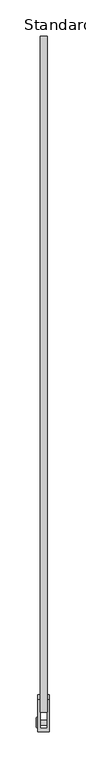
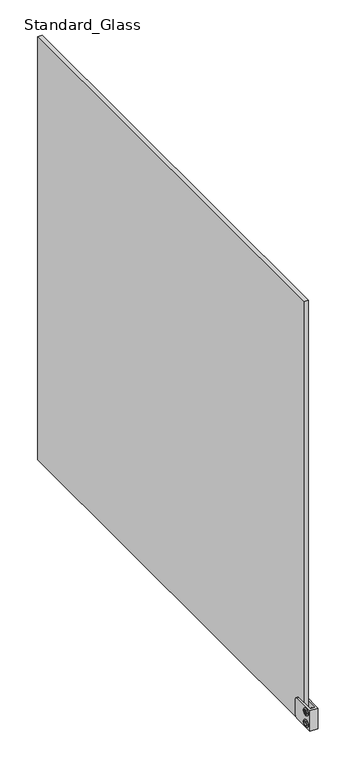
"""IFC4 building model written with IfcOpenShell, lengths in millimetres: railing geometry, Baluster-Excess-Fill-Straight-Panel-VIVA : Standard_Glass."""

from ifc_helpers import new_model, si_unit, point, frame, origin, place, context, project, spatial, polyline, circle_curve, ellipse_curve, trimmed, outline, extrude, source, transform, mapped, element, save
from ifc_brep_helpers import plane_surface, cylinder_surface, revolved_surface, advanced_brep


def standard_glass_6db6d0f4(model_context):
    return source(origin(), model_context, "Body", "SolidModel", [
        advanced_brep(
        [(36.7665, -950.8627289, 138.7358896), (24.0665, -950.8627289, 138.7358896), (24.0665, -943.7718371, 138.7358896), (36.7665, -943.7718371, 138.7358896), (24.0665, -954.7250721, 138.7358896), (24.0665, -939.9094939, 138.7358896), (23.199388, -948.9733584, 138.7358896), (36.7665, -948.9733584, 138.7358896), (36.7665, -945.6612076, 138.7358896), (23.199388, -945.6612076, 138.7358896), (23.2316551, -954.7250721, 138.7358896), (21.9503831, -953.4438, 138.7358896), (21.9503831, -941.1907659, 138.7358896), (23.2316551, -939.9094939, 138.7358896), (21.9503831, -951.6158785, 138.7358896), (21.9503831, -943.0186874, 138.7358896), (23.199388, -951.6158785, 138.7358896), (23.199388, -943.0186874, 138.7358896)],
        [
            (0, 1),
            (1, 2, circle_curve(frame((24.0665, -947.317283, 138.7358896), z_axis=(1.0, 0.0, 0.0), x_axis=(0.0, 1.0, 0.0)), 3.5454459)),
            (2, 3),
            (3, 0, circle_curve(frame((36.7665, -947.317283, 138.7358896), z_axis=(-1.0, 0.0, 0.0), x_axis=(0.0, 1.0, 0.0)), 3.5454459)),
            (2, 1, circle_curve(frame((24.0665, -947.317283, 138.7358896), z_axis=(1.0, 0.0, 0.0), x_axis=(0.0, 1.0, 0.0)), 3.5454459)),
            (0, 3, circle_curve(frame((36.7665, -947.317283, 138.7358896), z_axis=(-1.0, 0.0, 0.0), x_axis=(0.0, 1.0, 0.0)), 3.5454459)),
            (1, 4),
            (4, 5, circle_curve(frame((24.0665, -947.317283, 138.7358896), z_axis=(1.0, 0.0, 0.0), x_axis=(0.0, 1.0, 0.0)), 7.4077891)),
            (5, 2),
            (5, 4, circle_curve(frame((24.0665, -947.317283, 138.7358896), z_axis=(1.0, 0.0, 0.0), x_axis=(0.0, 1.0, 0.0)), 7.4077891)),
            (6, 7),
            (7, 8, circle_curve(frame((36.7665, -947.317283, 138.7358896), z_axis=(1.0, 0.0, 0.0), x_axis=(0.0, 1.0, 0.0)), 1.6560754)),
            (8, 9),
            (9, 6, circle_curve(frame((23.199388, -947.317283, 138.7358896), z_axis=(-1.0, 0.0, 0.0), x_axis=(0.0, 1.0, 0.0)), 1.6560754)),
            (8, 7, circle_curve(frame((36.7665, -947.317283, 138.7358896), z_axis=(1.0, 0.0, 0.0), x_axis=(0.0, 1.0, 0.0)), 1.6560754)),
            (6, 9, circle_curve(frame((23.199388, -947.317283, 138.7358896), z_axis=(-1.0, 0.0, 0.0), x_axis=(0.0, 1.0, 0.0)), 1.6560754)),
            (10, 11, circle_curve(frame((23.2316551, -953.4438, 138.7358896), z_axis=(0.0, 0.0, -1.0), x_axis=(0.0, -1.0, 0.0)), 1.281272)),
            (11, 12, circle_curve(frame((21.9503831, -947.317283, 138.7358896), z_axis=(1.0, 0.0, 0.0), x_axis=(0.0, 1.0, 0.0)), 6.1265171)),
            (12, 13, circle_curve(frame((23.2316551, -941.1907659, 138.7358896), z_axis=(0.0, 0.0, -1.0), x_axis=(0.0, 1.0, 0.0)), 1.281272)),
            (13, 10, circle_curve(frame((23.2316551, -947.317283, 138.7358896), z_axis=(-1.0, 0.0, 0.0), x_axis=(0.0, 1.0, 0.0)), 7.4077891)),
            (12, 11, circle_curve(frame((21.9503831, -947.317283, 138.7358896), z_axis=(1.0, 0.0, 0.0), x_axis=(0.0, 1.0, 0.0)), 6.1265171)),
            (10, 13, circle_curve(frame((23.2316551, -947.317283, 138.7358896), z_axis=(-1.0, 0.0, 0.0), x_axis=(0.0, 1.0, 0.0)), 7.4077891)),
            (11, 14),
            (14, 15, circle_curve(frame((21.9503831, -947.317283, 138.7358896), z_axis=(1.0, 0.0, 0.0), x_axis=(0.0, 1.0, 0.0)), 4.2985955)),
            (15, 12),
            (15, 14, circle_curve(frame((21.9503831, -947.317283, 138.7358896), z_axis=(1.0, 0.0, 0.0), x_axis=(0.0, 1.0, 0.0)), 4.2985955)),
            (4, 10),
            (13, 5),
            (7, 0),
            (3, 8),
            (14, 16),
            (16, 17, circle_curve(frame((23.199388, -947.317283, 138.7358896), z_axis=(1.0, 0.0, 0.0), x_axis=(0.0, 1.0, 0.0)), 4.2985955)),
            (17, 15),
            (17, 16, circle_curve(frame((23.199388, -947.317283, 138.7358896), z_axis=(1.0, 0.0, 0.0), x_axis=(0.0, 1.0, 0.0)), 4.2985955)),
            (16, 6),
            (9, 17),
        ],
        [
            cylinder_surface(frame((27.5632331, -947.317283, 138.7358896), z_axis=(1.0, 0.0, 0.0), x_axis=(0.0, 1.0, 0.0)), 3.5454459),
            plane_surface(frame((24.0665, -947.317283, 138.7358896), z_axis=(1.0, 0.0, 0.0), x_axis=(0.0, 1.0, 0.0))),
            revolved_surface(polyline([(36.7665, -945.6612076, 138.7358896), (23.199388, -945.6612076, 138.7358896)]), (27.5632331, -947.317283, 138.7358896), (1.0, 0.0, 0.0)),
            revolved_surface(trimmed(ellipse_curve(frame((23.2316551, -941.1907659, 138.7358896), z_axis=(0.0, 0.0, -1.0), x_axis=(0.0, 1.0, 0.0)), 1.281272, 1.281272), [point((21.9503831, -941.1907659, 138.7358896))], [point((23.2316551, -939.9094939, 138.7358896))], True, "CARTESIAN"), (27.5632331, -947.317283, 138.7358896), (1.0, 0.0, 0.0)),
            plane_surface(frame((21.9503831, -947.317283, 138.7358896), z_axis=(-1.0, 0.0, 0.0), x_axis=(0.0, 1.0, 0.0))),
            cylinder_surface(frame((27.5632331, -947.317283, 138.7358896), z_axis=(1.0, 0.0, 0.0), x_axis=(0.0, 1.0, 0.0)), 7.4077891),
            plane_surface(frame((36.7665, -947.317283, 138.7358896), z_axis=(1.0, 0.0, 0.0), x_axis=(0.0, 1.0, 0.0))),
            revolved_surface(polyline([(23.199388, -943.0186874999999, 138.7358896), (21.9503831, -943.0186874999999, 138.7358896)]), (27.5632331, -947.317283, 138.7358896), (1.0, 0.0, 0.0)),
            plane_surface(frame((23.199388, -947.317283, 138.7358896), z_axis=(-1.0, 0.0, 0.0), x_axis=(0.0, 1.0, 0.0))),
        ],
        [
            (0, [[1, 2, 3, 4]]),
            (0, [[-3, 5, -1, 6]]),
            (1, [[7, 8, 9, -2]]),
            (1, [[-9, 10, -7, -5]]),
            (2, [[11, 12, 13, 14]]),
            (2, [[-13, 15, -11, 16]]),
            (3, [[17, 18, 19, 20]]),
            (3, [[-19, 21, -17, 22]]),
            (4, [[23, 24, 25, -18]]),
            (4, [[-25, 26, -23, -21]]),
            (5, [[27, -20, 28, -8]]),
            (5, [[-28, -22, -27, -10]]),
            (6, [[29, -4, 30, -12]]),
            (6, [[-30, -6, -29, -15]]),
            (7, [[31, 32, 33, -24]]),
            (7, [[-33, 34, -31, -26]]),
            (8, [[35, -14, 36, -32]]),
            (8, [[-36, -16, -35, -34]]),
        ],
    ),
        advanced_brep(
        [(36.7665, -950.8627289, 114.1296396), (24.0665, -950.8627289, 114.1296396), (24.0665, -943.7718371, 114.1296396), (36.7665, -943.7718371, 114.1296396), (24.0665, -954.7250721, 114.1296396), (24.0665, -939.9094939, 114.1296396), (23.199388, -948.9733584, 114.1296396), (36.7665, -948.9733584, 114.1296396), (36.7665, -945.6612076, 114.1296396), (23.199388, -945.6612076, 114.1296396), (23.2316551, -954.7250721, 114.1296396), (21.9503831, -953.4438, 114.1296396), (21.9503831, -941.1907659, 114.1296396), (23.2316551, -939.9094939, 114.1296396), (21.9503831, -951.6158785, 114.1296396), (21.9503831, -943.0186874, 114.1296396), (23.199388, -951.6158785, 114.1296396), (23.199388, -943.0186874, 114.1296396)],
        [
            (0, 1),
            (1, 2, circle_curve(frame((24.0665, -947.317283, 114.1296396), z_axis=(1.0, 0.0, 0.0), x_axis=(0.0, 1.0, 0.0)), 3.5454459)),
            (2, 3),
            (3, 0, circle_curve(frame((36.7665, -947.317283, 114.1296396), z_axis=(-1.0, 0.0, 0.0), x_axis=(0.0, 1.0, 0.0)), 3.5454459)),
            (2, 1, circle_curve(frame((24.0665, -947.317283, 114.1296396), z_axis=(1.0, 0.0, 0.0), x_axis=(0.0, 1.0, 0.0)), 3.5454459)),
            (0, 3, circle_curve(frame((36.7665, -947.317283, 114.1296396), z_axis=(-1.0, 0.0, 0.0), x_axis=(0.0, 1.0, 0.0)), 3.5454459)),
            (1, 4),
            (4, 5, circle_curve(frame((24.0665, -947.317283, 114.1296396), z_axis=(1.0, 0.0, 0.0), x_axis=(0.0, 1.0, 0.0)), 7.4077891)),
            (5, 2),
            (5, 4, circle_curve(frame((24.0665, -947.317283, 114.1296396), z_axis=(1.0, 0.0, 0.0), x_axis=(0.0, 1.0, 0.0)), 7.4077891)),
            (6, 7),
            (7, 8, circle_curve(frame((36.7665, -947.317283, 114.1296396), z_axis=(1.0, 0.0, 0.0), x_axis=(0.0, 1.0, 0.0)), 1.6560754)),
            (8, 9),
            (9, 6, circle_curve(frame((23.199388, -947.317283, 114.1296396), z_axis=(-1.0, 0.0, 0.0), x_axis=(0.0, 1.0, 0.0)), 1.6560754)),
            (8, 7, circle_curve(frame((36.7665, -947.317283, 114.1296396), z_axis=(1.0, 0.0, 0.0), x_axis=(0.0, 1.0, 0.0)), 1.6560754)),
            (6, 9, circle_curve(frame((23.199388, -947.317283, 114.1296396), z_axis=(-1.0, 0.0, 0.0), x_axis=(0.0, 1.0, 0.0)), 1.6560754)),
            (10, 11, circle_curve(frame((23.2316551, -953.4438, 114.1296396), z_axis=(0.0, 0.0, -1.0), x_axis=(0.0, -1.0, 0.0)), 1.281272)),
            (11, 12, circle_curve(frame((21.9503831, -947.317283, 114.1296396), z_axis=(1.0, 0.0, 0.0), x_axis=(0.0, 1.0, 0.0)), 6.1265171)),
            (12, 13, circle_curve(frame((23.2316551, -941.1907659, 114.1296396), z_axis=(0.0, 0.0, -1.0), x_axis=(0.0, 1.0, 0.0)), 1.281272)),
            (13, 10, circle_curve(frame((23.2316551, -947.317283, 114.1296396), z_axis=(-1.0, 0.0, 0.0), x_axis=(0.0, 1.0, 0.0)), 7.4077891)),
            (12, 11, circle_curve(frame((21.9503831, -947.317283, 114.1296396), z_axis=(1.0, 0.0, 0.0), x_axis=(0.0, 1.0, 0.0)), 6.1265171)),
            (10, 13, circle_curve(frame((23.2316551, -947.317283, 114.1296396), z_axis=(-1.0, 0.0, 0.0), x_axis=(0.0, 1.0, 0.0)), 7.4077891)),
            (11, 14),
            (14, 15, circle_curve(frame((21.9503831, -947.317283, 114.1296396), z_axis=(1.0, 0.0, 0.0), x_axis=(0.0, 1.0, 0.0)), 4.2985955)),
            (15, 12),
            (15, 14, circle_curve(frame((21.9503831, -947.317283, 114.1296396), z_axis=(1.0, 0.0, 0.0), x_axis=(0.0, 1.0, 0.0)), 4.2985955)),
            (7, 0),
            (3, 8),
            (4, 10),
            (13, 5),
            (14, 16),
            (16, 17, circle_curve(frame((23.199388, -947.317283, 114.1296396), z_axis=(1.0, 0.0, 0.0), x_axis=(0.0, 1.0, 0.0)), 4.2985955)),
            (17, 15),
            (17, 16, circle_curve(frame((23.199388, -947.317283, 114.1296396), z_axis=(1.0, 0.0, 0.0), x_axis=(0.0, 1.0, 0.0)), 4.2985955)),
            (16, 6),
            (9, 17),
        ],
        [
            cylinder_surface(frame((27.5632331, -947.317283, 114.1296396), z_axis=(1.0, 0.0, 0.0), x_axis=(0.0, 1.0, 0.0)), 3.5454459),
            plane_surface(frame((24.0665, -947.317283, 114.1296396), z_axis=(1.0, 0.0, 0.0), x_axis=(0.0, 1.0, 0.0))),
            revolved_surface(polyline([(36.7665, -945.6612076, 114.1296396), (23.199388, -945.6612076, 114.1296396)]), (27.5632331, -947.317283, 114.1296396), (1.0, 0.0, 0.0)),
            revolved_surface(trimmed(ellipse_curve(frame((23.2316551, -941.1907659, 114.1296396), z_axis=(0.0, 0.0, -1.0), x_axis=(0.0, 1.0, 0.0)), 1.281272, 1.281272), [point((21.9503831, -941.1907659, 114.1296396))], [point((23.2316551, -939.9094939, 114.1296396))], True, "CARTESIAN"), (27.5632331, -947.317283, 114.1296396), (1.0, 0.0, 0.0)),
            plane_surface(frame((21.9503831, -947.317283, 114.1296396), z_axis=(-1.0, 0.0, 0.0), x_axis=(0.0, 1.0, 0.0))),
            plane_surface(frame((36.7665, -947.317283, 114.1296396), z_axis=(1.0, 0.0, 0.0), x_axis=(0.0, 1.0, 0.0))),
            cylinder_surface(frame((27.5632331, -947.317283, 114.1296396), z_axis=(1.0, 0.0, 0.0), x_axis=(0.0, 1.0, 0.0)), 7.4077891),
            revolved_surface(polyline([(23.199388, -943.0186874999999, 114.1296396), (21.9503831, -943.0186874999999, 114.1296396)]), (27.5632331, -947.317283, 114.1296396), (1.0, 0.0, 0.0)),
            plane_surface(frame((23.199388, -947.317283, 114.1296396), z_axis=(-1.0, 0.0, 0.0), x_axis=(0.0, 1.0, 0.0))),
        ],
        [
            (0, [[1, 2, 3, 4]]),
            (0, [[-3, 5, -1, 6]]),
            (1, [[7, 8, 9, -2]]),
            (1, [[-9, 10, -7, -5]]),
            (2, [[11, 12, 13, 14]]),
            (2, [[-13, 15, -11, 16]]),
            (3, [[17, 18, 19, 20]]),
            (3, [[-19, 21, -17, 22]]),
            (4, [[23, 24, 25, -18]]),
            (4, [[-25, 26, -23, -21]]),
            (5, [[27, -4, 28, -12]]),
            (5, [[-28, -6, -27, -15]]),
            (6, [[29, -20, 30, -8]]),
            (6, [[-30, -22, -29, -10]]),
            (7, [[31, 32, 33, -24]]),
            (7, [[-33, 34, -31, -26]]),
            (8, [[35, -14, 36, -32]]),
            (8, [[-36, -16, -35, -34]]),
        ],
    ),
        extrude(outline(polyline([(-951.4112113, 114.1296396), (-949.3642471, 117.6750855), (-945.2703188, 117.6750855), (-943.2233547, 114.1296396), (-945.2703188, 110.5841937), (-949.3642471, 110.5841937), (-951.4112113, 114.1296396)])), frame((21.7024185, 0.0, 0.0), z_axis=(1.0, 0.0, 0.0), x_axis=(0.0, 1.0, 0.0)), (0.0, 0.0, 1.0), 1.4969696),
        advanced_brep(
        [(24.0665, -959.9506278, 148.6577646), (24.0665, -915.5006278, 148.6577646), (24.0665, -909.1506278, 142.3077646), (24.0665, -909.1506278, 110.5577646), (24.0665, -915.5006278, 104.2077646), (24.0665, -959.9506278, 104.2077646), (39.9415, -959.9506278, 148.6577646), (39.9415, -959.9506278, 104.2077646), (39.9415, -915.5006278, 104.2077646), (39.9415, -909.1506278, 110.5577646), (39.9415, -909.1506278, 142.3077646), (39.9415, -915.5006278, 148.6577646), (27.2415, -915.5006278, 104.2077646), (27.2415, -955.2325474, 104.2077646), (36.7665, -955.2325474, 104.2077646), (36.7665, -915.5006278, 104.2077646), (27.2415, -955.2325474, 148.6577646), (36.7665, -955.2325474, 148.6577646), (27.2415, -909.1506278, 110.5577646), (27.2415, -909.1506278, 142.3077646), (27.2415, -915.5006278, 148.6577646), (36.7665, -915.5006278, 148.6577646), (36.7665, -909.1506278, 142.3077646), (36.7665, -909.1506278, 110.5577646)],
        [
            (0, 1),
            (1, 2, circle_curve(frame((24.0665, -915.5006278, 142.3077646), z_axis=(-1.0, 0.0, 0.0), x_axis=(0.0, 1.0, 0.0)), 6.35)),
            (2, 3),
            (3, 4, circle_curve(frame((24.0665, -915.5006278, 110.5577646), z_axis=(-1.0, 0.0, 0.0), x_axis=(0.0, 1.0, 0.0)), 6.35)),
            (4, 5),
            (5, 0),
            (6, 7),
            (7, 8),
            (8, 9, circle_curve(frame((39.9415, -915.5006278, 110.5577646), z_axis=(1.0, 0.0, 0.0), x_axis=(0.0, 1.0, 0.0)), 6.35)),
            (9, 10),
            (10, 11, circle_curve(frame((39.9415, -915.5006278, 142.3077646), z_axis=(1.0, 0.0, 0.0), x_axis=(0.0, 1.0, 0.0)), 6.35)),
            (11, 6),
            (5, 7),
            (6, 0),
            (4, 12),
            (12, 13),
            (13, 14),
            (14, 15),
            (15, 8),
            (13, 16),
            (16, 17),
            (17, 14),
            (12, 18, circle_curve(frame((27.2415, -915.5006278, 110.5577646), z_axis=(1.0, 0.0, 0.0), x_axis=(0.0, 1.0, 0.0)), 6.35)),
            (18, 19),
            (19, 20, circle_curve(frame((27.2415, -915.5006278, 142.3077646), z_axis=(1.0, 0.0, 0.0), x_axis=(0.0, 1.0, 0.0)), 6.35)),
            (20, 16),
            (17, 21),
            (21, 22, circle_curve(frame((36.7665, -915.5006278, 142.3077646), z_axis=(-1.0, 0.0, 0.0), x_axis=(0.0, 1.0, 0.0)), 6.35)),
            (22, 23),
            (23, 15, circle_curve(frame((36.7665, -915.5006278, 110.5577646), z_axis=(-1.0, 0.0, 0.0), x_axis=(0.0, 1.0, 0.0)), 6.35)),
            (23, 9),
            (3, 18),
            (22, 10),
            (2, 19),
            (21, 11),
            (1, 20),
        ],
        [
            plane_surface(frame((24.0665, -959.9506278, 104.2077646), z_axis=(-1.0, 0.0, 0.0), x_axis=(0.0, 0.0, -1.0))),
            plane_surface(frame((39.9415, -959.9506278, 104.2077646), z_axis=(1.0, 0.0, 0.0), x_axis=(0.0, 0.0, 1.0))),
            plane_surface(frame((24.0665, -959.9506278, 148.6577646), z_axis=(0.0, -1.0, 0.0), x_axis=(1.0, 0.0, 0.0))),
            plane_surface(frame((24.0665, -959.9506278, 104.2077646), z_axis=(0.0, 0.0, -1.0), x_axis=(1.0, 0.0, 0.0))),
            plane_surface(frame((36.7665, -955.2325474, 161.3577646), z_axis=(0.0, 1.0, 0.0), x_axis=(0.0, 0.0, -1.0))),
            plane_surface(frame((27.2415, -955.2325474, 161.3577646), z_axis=(1.0, 0.0, 0.0), x_axis=(0.0, 0.0, -1.0))),
            plane_surface(frame((36.7665, -896.4506278, 161.3577646), z_axis=(-1.0, 0.0, 0.0), x_axis=(0.0, 0.0, -1.0))),
            cylinder_surface(frame((39.9415, -915.5006278, 110.5577646), z_axis=(-1.0, 0.0, 0.0), x_axis=(0.0, 1.0, 0.0)), 6.35),
            plane_surface(frame((24.0665, -909.1506278, 110.5577646), z_axis=(0.0, 1.0, 0.0), x_axis=(1.0, 0.0, 0.0))),
            cylinder_surface(frame((39.9415, -915.5006278, 142.3077646), z_axis=(-1.0, 0.0, 0.0), x_axis=(0.0, 1.0, 0.0)), 6.35),
            plane_surface(frame((24.0665, -915.5006278, 148.6577646), z_axis=(0.0, 0.0, 1.0), x_axis=(1.0, 0.0, 0.0))),
        ],
        [
            (0, [[1, 2, 3, 4, 5, 6]]),
            (1, [[7, 8, 9, 10, 11, 12]]),
            (2, [[13, -7, 14, -6]]),
            (3, [[15, 16, 17, 18, 19, -8, -13, -5]]),
            (4, [[-17, 20, 21, 22]]),
            (5, [[-16, 23, 24, 25, 26, -20]]),
            (6, [[27, 28, 29, 30, -18, -22]]),
            (7, [[-19, -30, 31, -9]]),
            (7, [[32, -23, -15, -4]]),
            (8, [[-31, -29, 33, -10]]),
            (8, [[34, -24, -32, -3]]),
            (9, [[-33, -28, 35, -11]]),
            (9, [[36, -25, -34, -2]]),
            (10, [[-14, -12, -35, -27, -21, -26, -36, -1]]),
        ],
    ),
        extrude(outline(polyline([(36.7665, -1.0851207), (36.7665, -933.0075474), (27.2415, -933.0075474), (27.2415, -1.0851207), (36.7665, -1.0851207)])), frame((0.0, 0.0, 101.6), z_axis=(0.0, 0.0, 1.0), x_axis=(1.0, 0.0, 0.0)), (0.0, 0.0, 1.0), 901.7),
    ])


if __name__ == "__main__":
    model = new_model("IFC4")
    model_context = context("Model", 3, world=origin())
    ifc_project = project(units=[si_unit("LENGTHUNIT", "METRE", prefix="MILLI")], contexts=[model_context])
    site = spatial("IfcSite", under=ifc_project)
    building = spatial("IfcBuilding", under=site)
    placement = place(None, origin())
    standard_glass_shape = standard_glass_6db6d0f4(model_context)
    element("IfcRailing", 1, ObjectType="Baluster-Excess-Fill-Straight-Panel-VIVA : Standard_Glass", at=placement, inside=building, context=model_context, shape_type="MappedRepresentation", body=[
        mapped(standard_glass_shape, transform((0.0, 0.0, 0.0), x_axis=(1.0, 0.0, 0.0), y_axis=(0.0, 1.0, 0.0), z_axis=(0.0, 0.0, 1.0))),
    ])
    save(model, "model.ifc")
